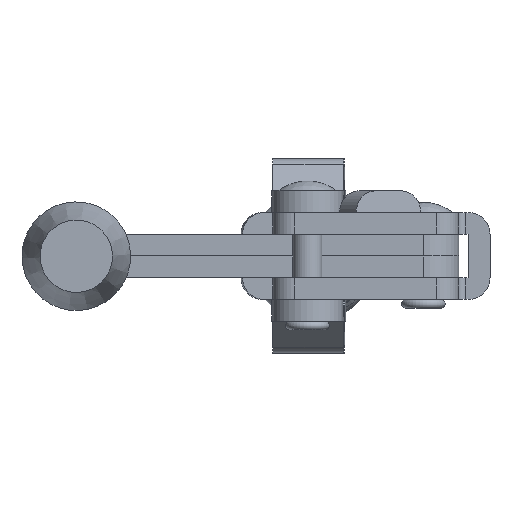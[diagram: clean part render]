
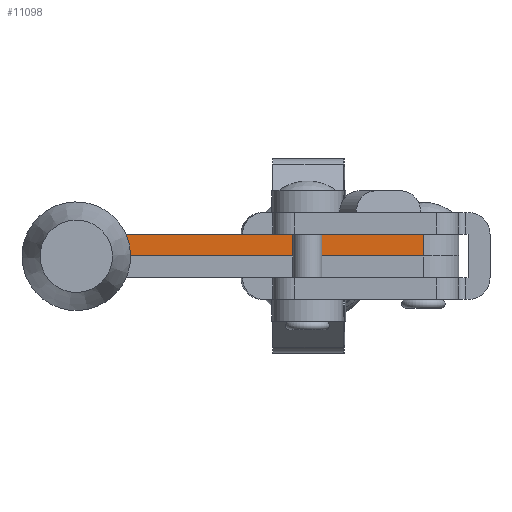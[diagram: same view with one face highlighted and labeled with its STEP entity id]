
A CAD part, front view. The second image highlights one B-rep face of the part: STEP entity #11098.
In plain terms, the highlighted planar face has unit normal (0, -1, 0) as drawn and (0, 0, -1) by its records, which use the part's own axes.
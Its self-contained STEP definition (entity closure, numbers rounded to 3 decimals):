
#905=PLANE('',#11995);
#1212=FACE_OUTER_BOUND('',#1851,.T.);
#1851=EDGE_LOOP('',(#8000,#8001,#8002,#8003,#8004,#8005,#8006,#8007,#8008,
#8009,#8010));
#2549=LINE('',#15388,#3502);
#2594=LINE('',#16160,#3547);
#2597=LINE('',#16169,#3550);
#2601=LINE('',#16181,#3554);
#2605=LINE('',#16193,#3558);
#2608=LINE('',#16199,#3561);
#2611=LINE('',#16205,#3564);
#2615=LINE('',#16215,#3568);
#3502=VECTOR('',#12972,1000.);
#3547=VECTOR('',#13021,1000.);
#3550=VECTOR('',#13028,1000.);
#3554=VECTOR('',#13040,1000.);
#3558=VECTOR('',#13052,1000.);
#3561=VECTOR('',#13057,1000.);
#3564=VECTOR('',#13062,1000.);
#3568=VECTOR('',#13076,1000.);
#4417=CIRCLE('',#11982,3.);
#4419=CIRCLE('',#11986,3.);
#4421=CIRCLE('',#11992,5.999);
#4757=VERTEX_POINT('',#15386);
#4758=VERTEX_POINT('',#15387);
#4838=VERTEX_POINT('',#16159);
#4841=VERTEX_POINT('',#16166);
#4842=VERTEX_POINT('',#16168);
#4844=VERTEX_POINT('',#16174);
#4846=VERTEX_POINT('',#16180);
#4848=VERTEX_POINT('',#16186);
#4850=VERTEX_POINT('',#16192);
#4852=VERTEX_POINT('',#16198);
#4854=VERTEX_POINT('',#16204);
#5972=EDGE_CURVE('',#4757,#4758,#2549,.T.);
#6053=EDGE_CURVE('',#4838,#4757,#2594,.T.);
#6057=EDGE_CURVE('',#4841,#4842,#2597,.T.);
#6060=EDGE_CURVE('',#4842,#4844,#4417,.T.);
#6063=EDGE_CURVE('',#4844,#4846,#2601,.T.);
#6066=EDGE_CURVE('',#4846,#4848,#4419,.T.);
#6069=EDGE_CURVE('',#4848,#4850,#2605,.T.);
#6072=EDGE_CURVE('',#4850,#4852,#2608,.T.);
#6075=EDGE_CURVE('',#4852,#4854,#2611,.T.);
#6078=EDGE_CURVE('',#4854,#4838,#4421,.T.);
#6081=EDGE_CURVE('',#4841,#4758,#2615,.T.);
#8000=ORIENTED_EDGE('',*,*,#6057,.F.);
#8001=ORIENTED_EDGE('',*,*,#6081,.T.);
#8002=ORIENTED_EDGE('',*,*,#5972,.F.);
#8003=ORIENTED_EDGE('',*,*,#6053,.F.);
#8004=ORIENTED_EDGE('',*,*,#6078,.F.);
#8005=ORIENTED_EDGE('',*,*,#6075,.F.);
#8006=ORIENTED_EDGE('',*,*,#6072,.F.);
#8007=ORIENTED_EDGE('',*,*,#6069,.F.);
#8008=ORIENTED_EDGE('',*,*,#6066,.F.);
#8009=ORIENTED_EDGE('',*,*,#6063,.F.);
#8010=ORIENTED_EDGE('',*,*,#6060,.F.);
#11098=ADVANCED_FACE('',(#1212),#905,.T.);
#11982=AXIS2_PLACEMENT_3D('',#16175,#13033,#13034);
#11986=AXIS2_PLACEMENT_3D('',#16187,#13045,#13046);
#11992=AXIS2_PLACEMENT_3D('',#16210,#13067,#13068);
#11995=AXIS2_PLACEMENT_3D('',#16214,#13074,#13075);
#12972=DIRECTION('',(1.,0.,0.));
#13021=DIRECTION('',(0.837,0.547,0.));
#13028=DIRECTION('',(-1.,0.,0.));
#13033=DIRECTION('center_axis',(0.,0.,1.));
#13034=DIRECTION('ref_axis',(-1.,0.,0.));
#13040=DIRECTION('',(-0.81,-0.587,0.));
#13045=DIRECTION('center_axis',(0.,0.,-1.));
#13046=DIRECTION('ref_axis',(1.,0.,0.));
#13052=DIRECTION('',(-0.81,0.587,0.));
#13057=DIRECTION('',(-0.498,-0.867,0.));
#13062=DIRECTION('',(0.81,-0.587,0.));
#13067=DIRECTION('center_axis',(0.,0.,1.));
#13068=DIRECTION('ref_axis',(1.,0.,0.));
#13074=DIRECTION('center_axis',(0.,0.,-1.));
#13075=DIRECTION('ref_axis',(-1.,0.,0.));
#13076=DIRECTION('',(0.,-1.,0.));
#15386=CARTESIAN_POINT('',(0.,0.,0.));
#15387=CARTESIAN_POINT('',(41.65,0.,0.));
#15388=CARTESIAN_POINT('',(0.,0.,0.));
#16159=CARTESIAN_POINT('',(-2.42,-1.581,0.));
#16160=CARTESIAN_POINT('',(-2.42,-1.581,0.));
#16166=CARTESIAN_POINT('',(41.65,3.,0.));
#16168=CARTESIAN_POINT('',(-0.213,3.,0.));
#16169=CARTESIAN_POINT('',(0.,3.,0.));
#16174=CARTESIAN_POINT('',(-1.973,2.43,0.));
#16175=CARTESIAN_POINT('Origin',(-0.213,0.,0.));
#16180=CARTESIAN_POINT('',(-4.497,0.601,0.));
#16181=CARTESIAN_POINT('',(-1.973,2.43,0.));
#16186=CARTESIAN_POINT('',(-8.017,0.601,0.));
#16187=CARTESIAN_POINT('Origin',(-6.257,3.031,0.));
#16192=CARTESIAN_POINT('',(-11.329,3.,0.));
#16193=CARTESIAN_POINT('',(-11.329,3.,0.));
#16198=CARTESIAN_POINT('',(-12.83,0.385,0.));
#16199=CARTESIAN_POINT('',(-12.83,0.385,0.));
#16204=CARTESIAN_POINT('',(-9.778,-1.827,0.));
#16205=CARTESIAN_POINT('',(-12.83,0.385,0.));
#16210=CARTESIAN_POINT('Origin',(-6.257,3.031,0.));
#16214=CARTESIAN_POINT('Origin',(-0.213,0.,0.));
#16215=CARTESIAN_POINT('',(41.65,0.,0.));
